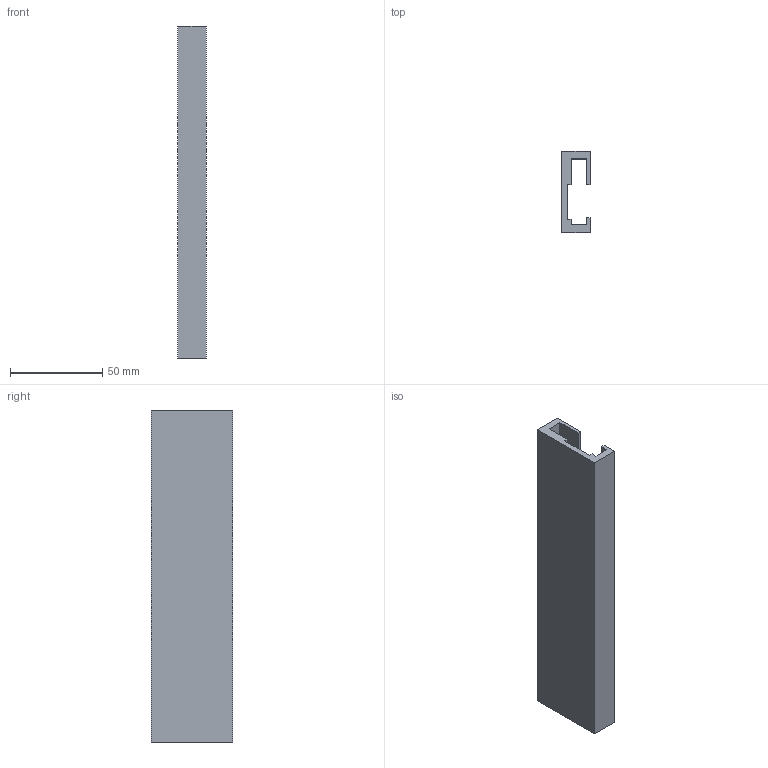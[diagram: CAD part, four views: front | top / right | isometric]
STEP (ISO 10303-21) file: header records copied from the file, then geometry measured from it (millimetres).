
FILE_DESCRIPTION(/* description */ (''),/* implementation_level */ '2;1');
FILE_NAME(/* name */ 'C:\Users\Jaime\Desktop\Universidad\MÁSTER ING. INDUSTRIAL\TFM\CD\PiezaL.stp',/* time_stamp */ '2018-02-15T23:57:48+01:00',/* author */ ('Jaime'),/* organization */ (''),/* preprocessor_version */ 'ST-DEVELOPER v16.5',/* originating_system */ 'Autodesk Inventor 2017',/* authorisation */ '');
FILE_SCHEMA (('AUTOMOTIVE_DESIGN { 1 0 10303 214 3 1 1 }'));
Length unit declared in the file: millimetre
Products named in the file (1): PiezaL
Bounding box: 15.4 x 44 x 180 mm (x, y, z)
Volume: 54216 mm3; surface area: 32930.4 mm2
Topology: 1 solids, 1 shells, 18 faces, 48 edges, 32 vertices
Faces by surface type: plane 18
Entity records: 576 total; most frequent: CARTESIAN_POINT 99, ORIENTED_EDGE 96, DIRECTION 86, LINE 48, VECTOR 48, EDGE_CURVE 48, VERTEX_POINT 32, AXIS2_PLACEMENT_3D 19
